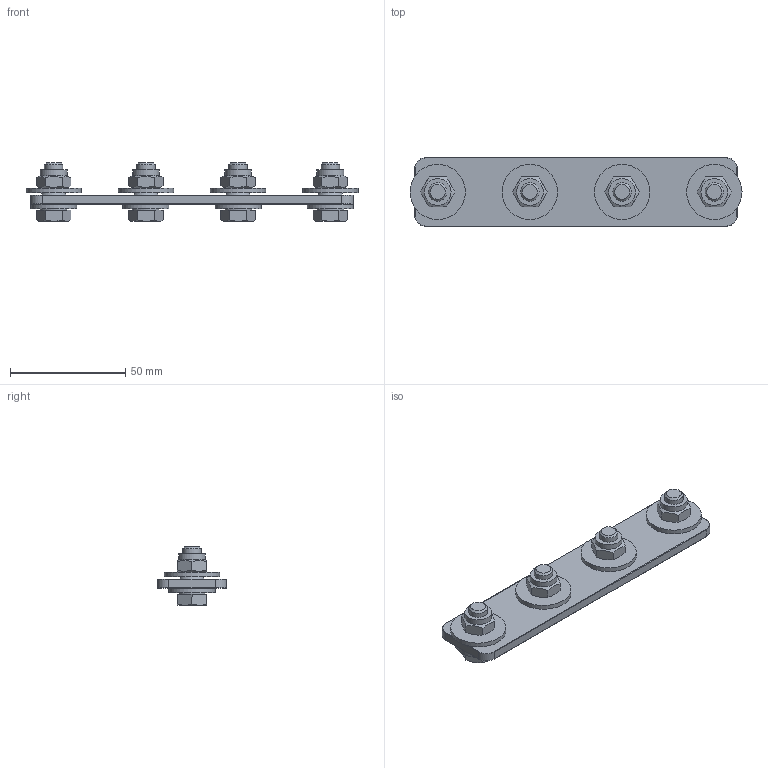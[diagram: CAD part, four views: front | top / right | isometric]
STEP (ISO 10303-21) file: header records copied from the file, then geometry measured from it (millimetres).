
FILE_DESCRIPTION(/* description */ ('CONNECTING STRIP'),/* implementation_level */ '2;1');
FILE_NAME(/* name */ '500-4320.stp',/* time_stamp */ '2022-09-16T10:19:21+02:00',/* author */ ('ML'),/* organization */ ('CARRYLINE'),/* preprocessor_version */ 'ST-DEVELOPER v19.2',/* originating_system */ 'Autodesk Inventor 2023',/* authorisation */ '');
FILE_SCHEMA (('AUTOMOTIVE_DESIGN { 1 0 10303 214 3 1 1 }'));
Length unit declared in the file: millimetre
Products named in the file (6): 500-4320; 500-4300; 500-4310; 5500-820; 5541-8; 5552-8
Assembly tree (17 placements, depth 2):
  500-4320
    500-4300
    500-4310  x4
    5500-820  x4
    5541-8  x4
    5552-8  x4
Bounding box: 144 x 30 x 25.3 mm (x, y, z)
Volume: 31101.2 mm3; surface area: 24050.5 mm2
Topology: 17 solids, 17 shells, 214 faces, 444 edges, 276 vertices
Faces by surface type: plane 98, cylinder 52, cone 48, torus 16
Full cylindrical faces by diameter (mm): 6.647 x4, 8 x4, 8.4 x4, 8.5 x4, 10.8 x4, 11 x4, 11.6 x4, 11.63 x4, 20 x4, 24 x4
Entity records: 2563 total; most frequent: DIRECTION 455, CARTESIAN_POINT 438, ORIENTED_EDGE 354, AXIS2_PLACEMENT_3D 197, EDGE_CURVE 177, VERTEX_POINT 108, EDGE_LOOP 99, CIRCLE 92
